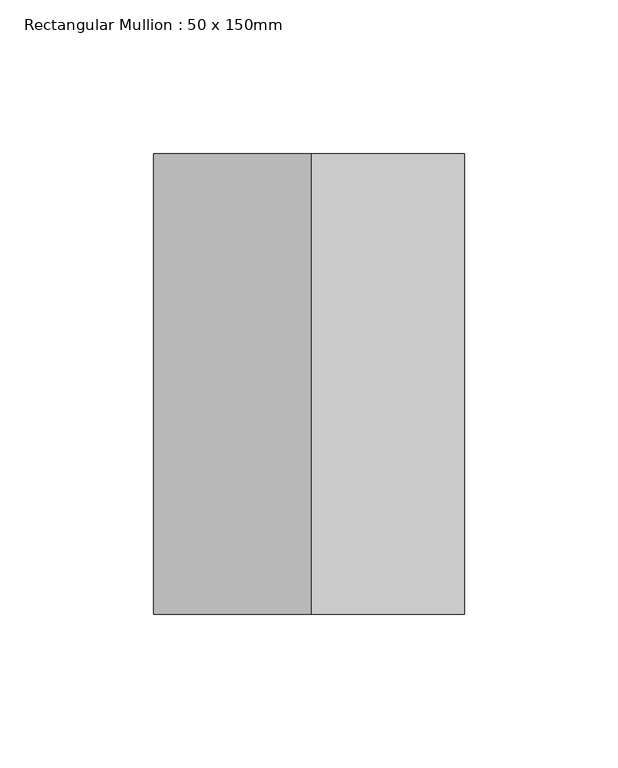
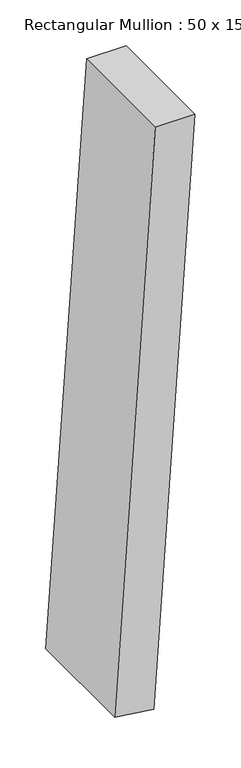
"""IFC4 building model written with IfcOpenShell, lengths in millimetres: member geometry, Rectangular Mullion : 50 x 150mm."""

from ifc_helpers import new_model, si_unit, point, frame, frame_2d, origin, place, context, project, spatial, polyline, circle_curve, trimmed, segment, composite_curve, outline, extrude, source, transform, mapped, element, save


def rectangular_mullion_50_x_150mm_ef700e36(model_context):
    return source(origin(), model_context, "Body", "SweptSolid", [
        extrude(outline(composite_curve([segment(trimmed(circle_curve(frame_2d((0.0, -5826.7943099)), 5826.7943099), [point((-775.0, -51.7699004))], [point((0.0, 0.0))], False, "CARTESIAN"), True, "CONTINUOUS"), segment(polyline([(0.0, 0.0), (0.0, -50.0)]), True, "CONTINUOUS"), segment(trimmed(circle_curve(frame_2d((0.0, -5826.7943099)), 5776.7943099), [point((0.0, -50.0))], [point((-768.349688, -101.3256605))], True, "CARTESIAN"), True, "CONTINUOUS"), segment(polyline([(-768.349688, -101.3256605), (-775.0, -51.7699004)]), True, "CONTINUOUS")], self_intersect=False)), frame((0.0, -75.0, 0.0), z_axis=(0.0, 1.0, 0.0), x_axis=(0.0, 0.0, 1.0)), (0.0, 0.0, 1.0), 150.0),
    ])


if __name__ == "__main__":
    model = new_model("IFC4")
    model_context = context("Model", 3, world=origin())
    ifc_project = project(units=[si_unit("LENGTHUNIT", "METRE", prefix="MILLI")], contexts=[model_context])
    site = spatial("IfcSite", under=ifc_project)
    building = spatial("IfcBuilding", under=site)
    placement = place(None, origin())
    rectangular_mullion_50_x_150mm_shape = rectangular_mullion_50_x_150mm_ef700e36(model_context)
    element("IfcMember", 1, ObjectType="Rectangular Mullion : 50 x 150mm", at=placement, inside=building, context=model_context, shape_type="MappedRepresentation", body=[
        mapped(rectangular_mullion_50_x_150mm_shape, transform((0.0, 0.0, 0.0), x_axis=(1.0, 0.0, 0.0), y_axis=(0.0, 1.0, 0.0), z_axis=(0.0, 0.0, 1.0))),
    ])
    save(model, "model.ifc")
